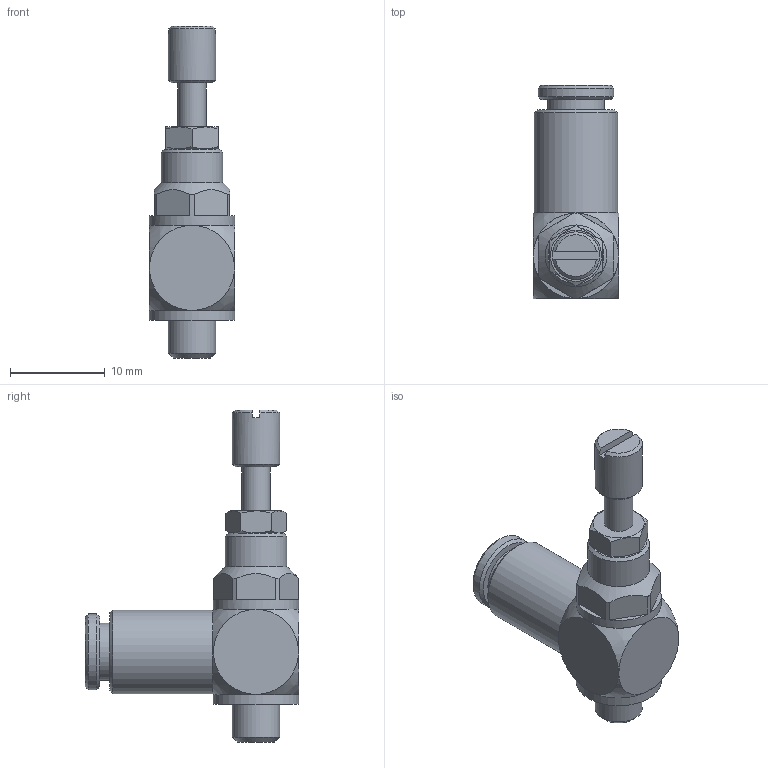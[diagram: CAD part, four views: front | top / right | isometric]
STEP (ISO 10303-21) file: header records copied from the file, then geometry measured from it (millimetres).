
FILE_DESCRIPTION(/* description */ ('MICROREG. DI FLUSSO #DIR. M5 T.3.17 CON POMOLO'),/* implementation_level */ '2;1');
FILE_NAME(/* name */ 'I:\Area Tecnica\Disegni\VARIE-3D\Componenti\600\6_01_###_###\6_01_315_##P.stp',/* time_stamp */ '2017-01-04T08:25:44+01:00',/* author */ ('maniean1'),/* organization */ ('Pneumax S.p.A.'),/* preprocessor_version */ 'ST-DEVELOPER v15.2',/* originating_system */ 'Autodesk Inventor 2014',/* authorisation */ '');
FILE_SCHEMA (('AUTOMOTIVE_DESIGN { 1 0 10303 214 3 1 1 }'));
Length unit declared in the file: millimetre
Products named in the file (1): 6_01_315_##P
Bounding box: 9 x 22.5 x 35 mm (x, y, z)
Volume: 2073.6 mm3; surface area: 1434.4 mm2
Topology: 1 solids, 1 shells, 60 faces, 132 edges, 86 vertices
Faces by surface type: plane 37, cone 12, cylinder 10, sphere 1
Full cylindrical faces by diameter (mm): 3 x1, 3.17 x1, 5 x2, 6 x1, 6.5 x1, 8 x1, 8.8 x1, 9 x2
Entity records: 1581 total; most frequent: CARTESIAN_POINT 289, DIRECTION 254, ORIENTED_EDGE 208, AXIS2_PLACEMENT_3D 111, EDGE_CURVE 104, EDGE_LOOP 94, VERTEX_POINT 80, ADVANCED_FACE 60
